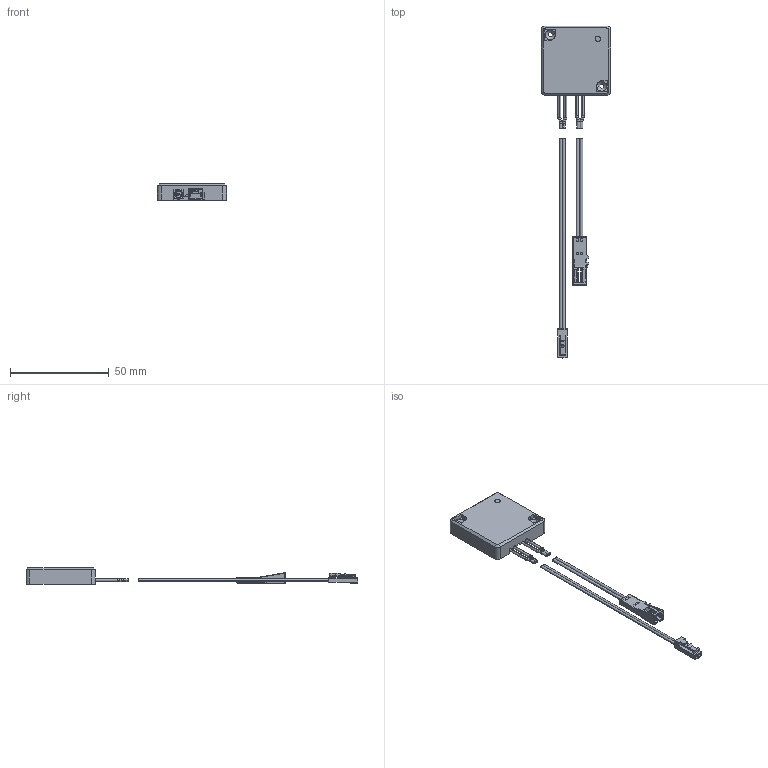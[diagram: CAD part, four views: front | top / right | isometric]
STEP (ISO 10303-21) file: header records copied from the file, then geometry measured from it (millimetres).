
FILE_DESCRIPTION (( 'STEP AP203' ), '1' );
FILE_NAME ('MultiWhite_Basic_Control_24.STEP', '2024-12-03T04:43:01', ( '' ), ( '' ), 'SwSTEP 2.0', 'SolidWorks 2023', '' );
FILE_SCHEMA (( 'CONFIG_CONTROL_DESIGN' ));
Length unit declared in the file: millimetre
Products named in the file (4): 1916503_Pr1251_Mini_Stecker_LED_sw__Leitung schwar; MultiWhite_Basic_Control_24; 3077501_Pr2680_MultiWhite²_Basic_Control; 1916504_Pr1251_Mini_Buchse_LED_sw__Leitungen sw
Assembly tree (3 placements, depth 2):
  MultiWhite_Basic_Control_24
    3077501_Pr2680_MultiWhite²_Basic_Control
    1916503_Pr1251_Mini_Stecker_LED_sw__Leitung schwar
    1916504_Pr1251_Mini_Buchse_LED_sw__Leitungen sw
Bounding box: 35 x 168.2 x 8.5 mm (x, y, z)
Volume: 10162.2 mm3; surface area: 8363.3 mm2
Topology: 11 solids, 11 shells, 550 faces, 1321 edges, 741 vertices
Faces by surface type: cylinder 232, plane 190, torus 56, sphere 45, bspline 19, cone 8
Entity records: 16091 total; most frequent: CARTESIAN_POINT 3208, DIRECTION 2770, ORIENTED_EDGE 2518, EDGE_CURVE 1259, AXIS2_PLACEMENT_3D 1031, VERTEX_POINT 737, LINE 708, VECTOR 708
